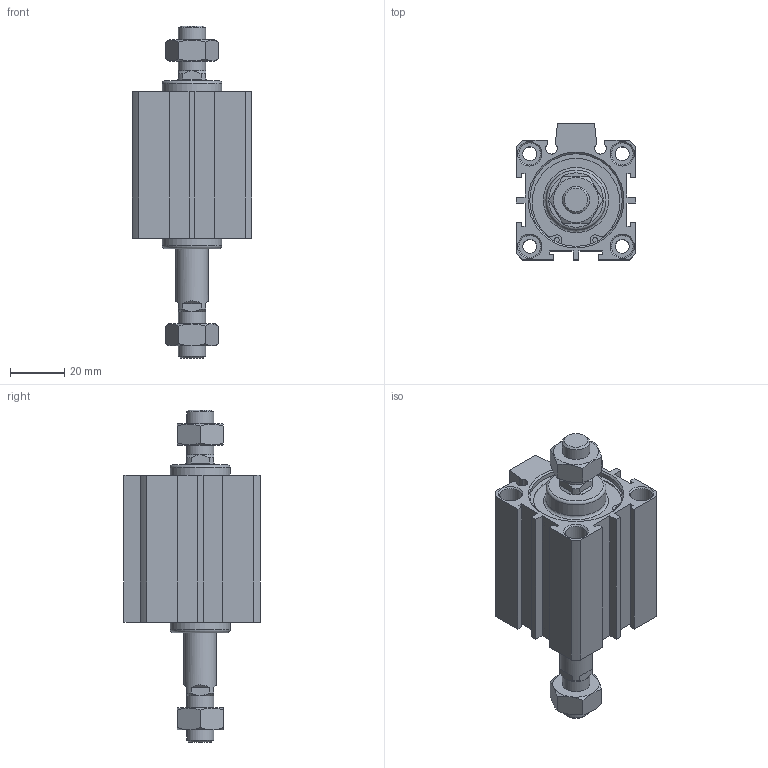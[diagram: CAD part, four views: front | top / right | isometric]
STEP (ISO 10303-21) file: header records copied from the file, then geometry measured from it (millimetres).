
FILE_DESCRIPTION((''),'2;1');
FILE_NAME('I:\3D電子目錄\氣缸\JDD\JDD-BS\JDD32-BS\JDD32x20-BS.stp','2007-02-27T14:04:27',('662F206'),(''),'Autodesk Inventor 10','Autodesk Inventor 10','');
FILE_SCHEMA(('AUTOMOTIVE_DESIGN { 1 0 10303 214 1 1 1 1 }'));
Length unit declared in the file: millimetre
Products named in the file (3): JDD32-BS; R 形環 35
Assembly tree (3 placements, depth 2):
  JDD32-BS
    JDD32-BS
    R 形環 35  x2
Bounding box: 44 x 50 x 122 mm (x, y, z)
Volume: 99484.4 mm3; surface area: 28630.2 mm2
Topology: 3 solids, 3 shells, 207 faces, 489 edges, 314 vertices
Faces by surface type: plane 112, cylinder 53, cone 38, bspline 2, torus 2
Full cylindrical faces by diameter (mm): 1.9 x4, 2.2 x2, 5.1 x4, 8 x8, 10 x4, 12 x1, 22 x2, 34 x4, 36 x2
Entity records: 5397 total; most frequent: CARTESIAN_POINT 1081, DIRECTION 894, ORIENTED_EDGE 802, EDGE_CURVE 401, AXIS2_PLACEMENT_3D 346, VERTEX_POINT 287, EDGE_LOOP 284, VECTOR 202
